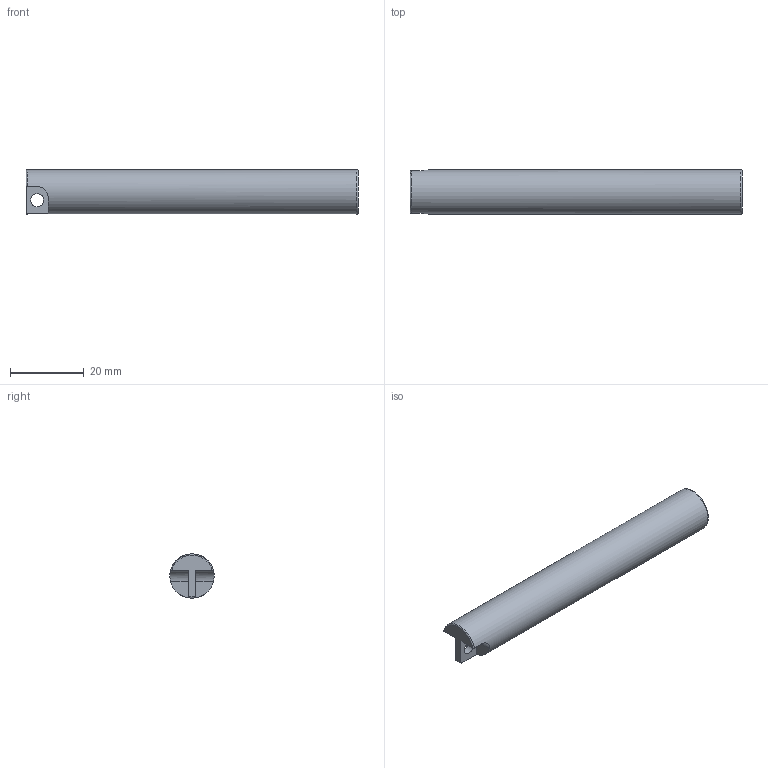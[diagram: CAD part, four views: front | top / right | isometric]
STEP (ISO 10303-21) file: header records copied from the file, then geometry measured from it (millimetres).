
FILE_DESCRIPTION( ( 'Unknown' ), '1' );
FILE_NAME( 'X:/SolidEdge/Models/Dokumentationen/Opto/Zubehör/Vereinfachte Modelle/Neutralformate/11137318.stp', 'Unknown', ( 'Unknown' ), ( 'Unknown' ), 'PSStep 15.0.49', 'Unknown', ' ' );
FILE_SCHEMA( ( 'AUTOMOTIVE_DESIGN { 1 0 10303 214 1 1 1 1 }' ) );
Length unit declared in the file: millimetre
Products named in the file (1): 1
Bounding box: 90 x 12 x 12 mm (x, y, z)
Volume: 9821 mm3; surface area: 3629.9 mm2
Topology: 1 solids, 1 shells, 15 faces, 38 edges, 25 vertices
Faces by surface type: plane 8, cylinder 4, torus 3
Full cylindrical faces by diameter (mm): 3.5 x1, 12 x1
Entity records: 606 total; most frequent: CARTESIAN_POINT 128, DIRECTION 72, ORIENTED_EDGE 68, EDGE_CURVE 34, AXIS2_PLACEMENT_3D 28, VERTEX_POINT 24, EDGE_LOOP 20, FACE_OUTER_BOUND 18
